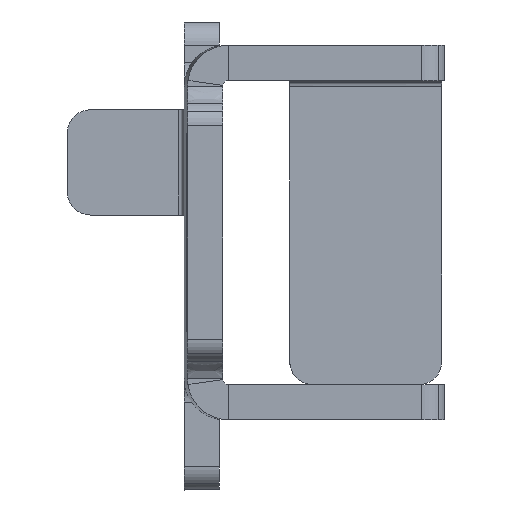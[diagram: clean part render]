
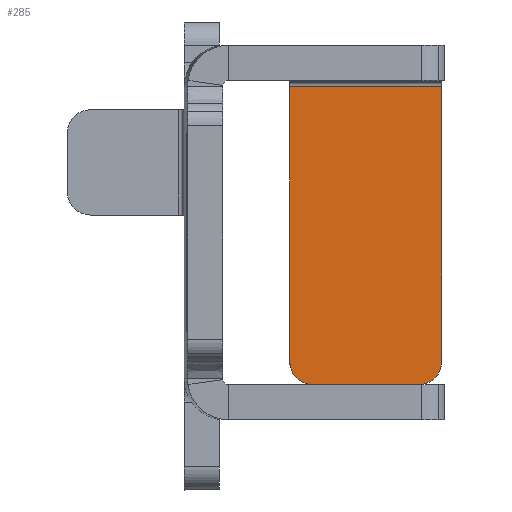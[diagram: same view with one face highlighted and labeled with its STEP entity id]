
A CAD part, left-side view. The second image highlights one B-rep face of the part: STEP entity #285.
In plain terms, the highlighted planar face has unit normal (-1, -0.001, 0).
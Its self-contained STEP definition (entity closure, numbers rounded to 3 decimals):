
#59=VECTOR('Line Direction',#58,1.) ;
#159=VECTOR('Line Direction',#158,1.) ;
#207=VECTOR('Line Direction',#206,1.) ;
#245=VECTOR('Line Direction',#244,1.) ;
#272=VECTOR('Line Direction',#271,1.) ;
#58=DIRECTION('Vector Direction',(0.,0.,-1.)) ;
#96=DIRECTION('Axis2P3D Direction',(1.,0.001,0.)) ;
#113=DIRECTION('Axis2P3D Direction',(1.,0.001,0.)) ;
#158=DIRECTION('Vector Direction',(-0.001,1.,0.)) ;
#175=DIRECTION('Axis2P3D Direction',(1.,0.001,0.)) ;
#206=DIRECTION('Vector Direction',(0.,0.,-1.)) ;
#244=DIRECTION('Vector Direction',(0.,0.,1.)) ;
#266=DIRECTION('Axis2P3D Direction',(1.,0.001,0.)) ;
#267=DIRECTION('Axis2P3D XDirection',(0.,0.,1.)) ;
#271=DIRECTION('Vector Direction',(0.001,-1.,0.)) ;
#54=CARTESIAN_POINT('Vertex',(1048.556,-616.603,361.816)) ;
#57=CARTESIAN_POINT('Line Origine',(1048.555,-616.603,350.066)) ;
#61=CARTESIAN_POINT('Vertex',(1048.555,-616.603,338.316)) ;
#85=CARTESIAN_POINT('Vertex',(1048.554,-616.017,336.901)) ;
#95=CARTESIAN_POINT('Axis2P3D Location',(1048.553,-614.603,338.316)) ;
#112=CARTESIAN_POINT('Axis2P3D Location',(1048.553,-614.603,338.316)) ;
#116=CARTESIAN_POINT('Vertex',(1048.553,-614.603,336.316)) ;
#149=CARTESIAN_POINT('Vertex',(1048.546,-605.603,336.316)) ;
#157=CARTESIAN_POINT('Line Origine',(1048.55,-610.103,336.316)) ;
#174=CARTESIAN_POINT('Axis2P3D Location',(1048.546,-605.603,338.316)) ;
#178=CARTESIAN_POINT('Vertex',(1048.545,-603.603,338.316)) ;
#205=CARTESIAN_POINT('Line Origine',(1048.545,-603.603,344.816)) ;
#209=CARTESIAN_POINT('Vertex',(1048.545,-603.603,351.316)) ;
#243=CARTESIAN_POINT('Line Origine',(1048.545,-603.603,356.566)) ;
#247=CARTESIAN_POINT('Vertex',(1048.545,-603.603,361.816)) ;
#265=CARTESIAN_POINT('Axis2P3D Location',(1048.631,-714.603,334.316)) ;
#270=CARTESIAN_POINT('Line Origine',(1048.551,-610.103,361.816)) ;
#97=AXIS2_PLACEMENT_3D('Circle Axis2P3D',#95,#96,$) ;
#114=AXIS2_PLACEMENT_3D('Circle Axis2P3D',#112,#113,$) ;
#176=AXIS2_PLACEMENT_3D('Circle Axis2P3D',#174,#175,$) ;
#268=AXIS2_PLACEMENT_3D('Plane Axis2P3D',#265,#266,#267) ;
#63=EDGE_CURVE('',#55,#62,#60,.T.) ;
#99=EDGE_CURVE('',#62,#86,#98,.T.) ;
#118=EDGE_CURVE('',#86,#117,#115,.T.) ;
#161=EDGE_CURVE('',#117,#150,#160,.T.) ;
#180=EDGE_CURVE('',#150,#179,#177,.T.) ;
#211=EDGE_CURVE('',#210,#179,#208,.T.) ;
#249=EDGE_CURVE('',#210,#248,#246,.T.) ;
#274=EDGE_CURVE('',#248,#55,#273,.T.) ;
#269=PLANE('Plane',#268) ;
#276=ORIENTED_EDGE('',*,*,#180,.F.) ;
#277=ORIENTED_EDGE('',*,*,#161,.F.) ;
#278=ORIENTED_EDGE('',*,*,#118,.F.) ;
#279=ORIENTED_EDGE('',*,*,#99,.F.) ;
#280=ORIENTED_EDGE('',*,*,#63,.F.) ;
#281=ORIENTED_EDGE('',*,*,#274,.F.) ;
#282=ORIENTED_EDGE('',*,*,#249,.F.) ;
#283=ORIENTED_EDGE('',*,*,#211,.T.) ;
#60=LINE('Line',#57,#59) ;
#160=LINE('Line',#157,#159) ;
#208=LINE('Line',#205,#207) ;
#246=LINE('Line',#243,#245) ;
#273=LINE('Line',#270,#272) ;
#285=ADVANCED_FACE('\X2\96F64EF651E04F554F53\X0\',(#284),#269,.F.) ;
#98=CIRCLE('generated circle',#97,2.) ;
#115=CIRCLE('generated circle',#114,2.) ;
#177=CIRCLE('generated circle',#176,2.) ;
#55=VERTEX_POINT('',#54) ;
#62=VERTEX_POINT('',#61) ;
#86=VERTEX_POINT('',#85) ;
#117=VERTEX_POINT('',#116) ;
#150=VERTEX_POINT('',#149) ;
#179=VERTEX_POINT('',#178) ;
#210=VERTEX_POINT('',#209) ;
#248=VERTEX_POINT('',#247) ;
#275=EDGE_LOOP('',(#276,#277,#278,#279,#280,#281,#282,#283)) ;
#284=FACE_OUTER_BOUND('',#275,.T.) ;
